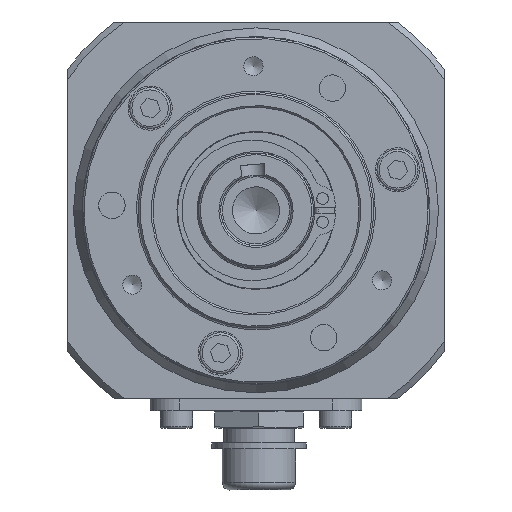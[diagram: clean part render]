
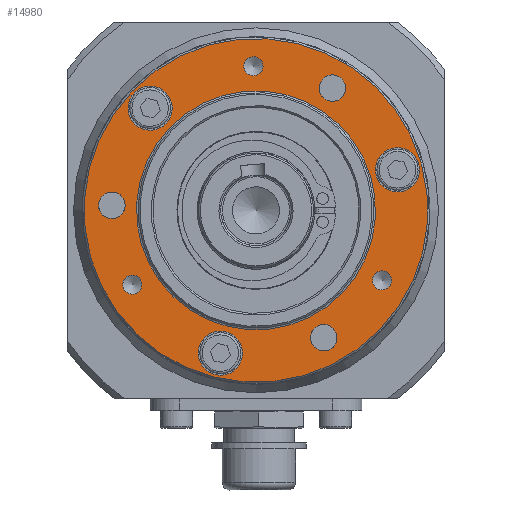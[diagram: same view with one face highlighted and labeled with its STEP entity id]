
A CAD part, left-side view. The second image highlights one B-rep face of the part: STEP entity #14980.
In plain terms, the highlighted planar face has unit normal (-1, 0, 0).
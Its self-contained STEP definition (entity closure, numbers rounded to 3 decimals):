
#425=FACE_BOUND('',#4896,.T.);
#426=FACE_BOUND('',#4897,.T.);
#427=FACE_BOUND('',#4898,.T.);
#428=FACE_BOUND('',#4899,.T.);
#429=FACE_BOUND('',#4900,.T.);
#430=FACE_BOUND('',#4901,.T.);
#431=FACE_BOUND('',#4902,.T.);
#432=FACE_BOUND('',#4903,.T.);
#433=FACE_BOUND('',#4904,.T.);
#434=FACE_BOUND('',#4905,.T.);
#3967=FACE_OUTER_BOUND('',#4895,.T.);
#4895=EDGE_LOOP('',(#11746));
#4896=EDGE_LOOP('',(#11747));
#4897=EDGE_LOOP('',(#11748));
#4898=EDGE_LOOP('',(#11749));
#4899=EDGE_LOOP('',(#11750));
#4900=EDGE_LOOP('',(#11751));
#4901=EDGE_LOOP('',(#11752));
#4902=EDGE_LOOP('',(#11753));
#4903=EDGE_LOOP('',(#11754));
#4904=EDGE_LOOP('',(#11755));
#4905=EDGE_LOOP('',(#11756));
#5550=CIRCLE('',#15761,29.2);
#5551=CIRCLE('',#15763,1.621);
#5553=CIRCLE('',#15767,1.621);
#5555=CIRCLE('',#15771,1.621);
#5557=CIRCLE('',#15775,3.75);
#5559=CIRCLE('',#15779,3.75);
#5562=CIRCLE('',#15784,3.75);
#5566=CIRCLE('',#15791,2.25);
#5567=CIRCLE('',#15792,2.25);
#5568=CIRCLE('',#15793,2.25);
#5569=CIRCLE('',#15794,20.3);
#6704=VERTEX_POINT('',#24844);
#6705=VERTEX_POINT('',#24847);
#6707=VERTEX_POINT('',#24853);
#6709=VERTEX_POINT('',#24859);
#6711=VERTEX_POINT('',#24865);
#6713=VERTEX_POINT('',#24871);
#6716=VERTEX_POINT('',#24879);
#6720=VERTEX_POINT('',#24890);
#6721=VERTEX_POINT('',#24892);
#6722=VERTEX_POINT('',#24894);
#6723=VERTEX_POINT('',#24896);
#8501=EDGE_CURVE('',#6704,#6704,#5550,.T.);
#8502=EDGE_CURVE('',#6705,#6705,#5551,.T.);
#8504=EDGE_CURVE('',#6707,#6707,#5553,.T.);
#8506=EDGE_CURVE('',#6709,#6709,#5555,.T.);
#8508=EDGE_CURVE('',#6711,#6711,#5557,.T.);
#8510=EDGE_CURVE('',#6713,#6713,#5559,.T.);
#8513=EDGE_CURVE('',#6716,#6716,#5562,.T.);
#8517=EDGE_CURVE('',#6720,#6720,#5566,.T.);
#8518=EDGE_CURVE('',#6721,#6721,#5567,.T.);
#8519=EDGE_CURVE('',#6722,#6722,#5568,.T.);
#8520=EDGE_CURVE('',#6723,#6723,#5569,.T.);
#11746=ORIENTED_EDGE('',*,*,#8501,.F.);
#11747=ORIENTED_EDGE('',*,*,#8517,.T.);
#11748=ORIENTED_EDGE('',*,*,#8518,.T.);
#11749=ORIENTED_EDGE('',*,*,#8519,.T.);
#11750=ORIENTED_EDGE('',*,*,#8502,.T.);
#11751=ORIENTED_EDGE('',*,*,#8504,.T.);
#11752=ORIENTED_EDGE('',*,*,#8506,.T.);
#11753=ORIENTED_EDGE('',*,*,#8508,.T.);
#11754=ORIENTED_EDGE('',*,*,#8510,.T.);
#11755=ORIENTED_EDGE('',*,*,#8513,.T.);
#11756=ORIENTED_EDGE('',*,*,#8520,.F.);
#13465=PLANE('',#15790);
#14980=ADVANCED_FACE('',(#3967,#425,#426,#427,#428,#429,#430,#431,#432,
#433,#434),#13465,.T.);
#15761=AXIS2_PLACEMENT_3D('',#24845,#17970,#17971);
#15763=AXIS2_PLACEMENT_3D('',#24848,#17974,#17975);
#15767=AXIS2_PLACEMENT_3D('',#24854,#17982,#17983);
#15771=AXIS2_PLACEMENT_3D('',#24860,#17990,#17991);
#15775=AXIS2_PLACEMENT_3D('',#24866,#17998,#17999);
#15779=AXIS2_PLACEMENT_3D('',#24872,#18006,#18007);
#15784=AXIS2_PLACEMENT_3D('',#24880,#18016,#18017);
#15790=AXIS2_PLACEMENT_3D('',#24889,#18028,#18029);
#15791=AXIS2_PLACEMENT_3D('',#24891,#18030,#18031);
#15792=AXIS2_PLACEMENT_3D('',#24893,#18032,#18033);
#15793=AXIS2_PLACEMENT_3D('',#24895,#18034,#18035);
#15794=AXIS2_PLACEMENT_3D('',#24897,#18036,#18037);
#17970=DIRECTION('center_axis',(1.,0.,0.));
#17971=DIRECTION('ref_axis',(0.,-0.961,0.276));
#17974=DIRECTION('center_axis',(1.,0.,0.));
#17975=DIRECTION('ref_axis',(0.,0.276,0.961));
#17982=DIRECTION('center_axis',(1.,0.,0.));
#17983=DIRECTION('ref_axis',(0.,0.276,0.961));
#17990=DIRECTION('center_axis',(1.,0.,0.));
#17991=DIRECTION('ref_axis',(0.,0.276,0.961));
#17998=DIRECTION('center_axis',(1.,0.,0.));
#17999=DIRECTION('ref_axis',(0.,0.276,0.961));
#18006=DIRECTION('center_axis',(1.,0.,0.));
#18007=DIRECTION('ref_axis',(0.,0.276,0.961));
#18016=DIRECTION('center_axis',(1.,0.,0.));
#18017=DIRECTION('ref_axis',(0.,0.276,0.961));
#18028=DIRECTION('center_axis',(-1.,0.,0.));
#18029=DIRECTION('ref_axis',(0.,0.276,0.961));
#18030=DIRECTION('center_axis',(1.,0.,0.));
#18031=DIRECTION('ref_axis',(0.,0.276,0.961));
#18032=DIRECTION('center_axis',(1.,0.,0.));
#18033=DIRECTION('ref_axis',(0.,0.276,0.961));
#18034=DIRECTION('center_axis',(1.,0.,0.));
#18035=DIRECTION('ref_axis',(0.,0.276,0.961));
#18036=DIRECTION('center_axis',(-1.,0.,0.));
#18037=DIRECTION('ref_axis',(0.,-0.961,0.276));
#24844=CARTESIAN_POINT('',(3.,28.069,-8.049));
#24845=CARTESIAN_POINT('Origin',(3.,0.,
0.));
#24847=CARTESIAN_POINT('',(3.,-0.019,22.938));
#24848=CARTESIAN_POINT('Origin',(3.,0.428,24.496));
#24853=CARTESIAN_POINT('',(3.,20.554,-14.177));
#24854=CARTESIAN_POINT('Origin',(3.,21.001,-12.618));
#24859=CARTESIAN_POINT('',(3.,-21.875,-13.436));
#24860=CARTESIAN_POINT('Origin',(3.,-21.428,-11.878));
#24865=CARTESIAN_POINT('',(3.,16.95,13.762));
#24866=CARTESIAN_POINT('Origin',(3.,17.983,17.366));
#24871=CARTESIAN_POINT('',(3.,5.014,-27.862));
#24872=CARTESIAN_POINT('Origin',(3.,6.048,-24.257));
#24879=CARTESIAN_POINT('',(3.,-25.065,3.286));
#24880=CARTESIAN_POINT('Origin',(3.,-24.032,6.891));
#24889=CARTESIAN_POINT('Origin',(3.,23.791,-6.822));
#24890=CARTESIAN_POINT('',(3.,-12.122,-23.795));
#24891=CARTESIAN_POINT('Origin',(3.,-11.502,-21.632));
#24892=CARTESIAN_POINT('',(3.,-13.603,18.614));
#24893=CARTESIAN_POINT('Origin',(3.,-12.983,20.777));
#24894=CARTESIAN_POINT('',(3.,23.865,-1.308));
#24895=CARTESIAN_POINT('Origin',(3.,24.485,0.855));
#24896=CARTESIAN_POINT('',(3.,19.514,-5.595));
#24897=CARTESIAN_POINT('Origin',(3.,0.,
0.));
